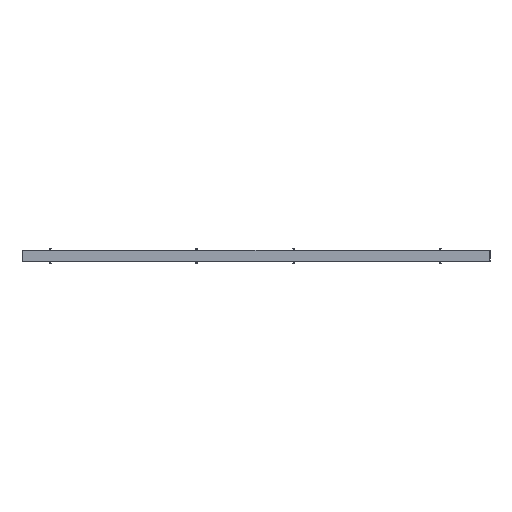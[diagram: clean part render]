
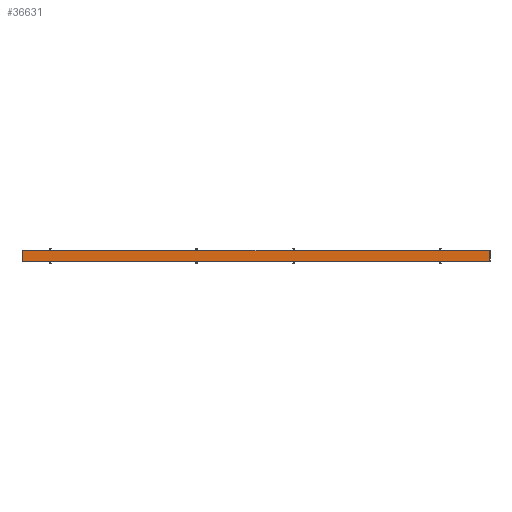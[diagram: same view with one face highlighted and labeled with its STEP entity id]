
A CAD part, left-side view. The second image highlights one B-rep face of the part: STEP entity #36631.
In plain terms, the highlighted planar face has unit normal (-1, 0, 0) as drawn and (0, -1, 0) by its records, which use the part's own axes.
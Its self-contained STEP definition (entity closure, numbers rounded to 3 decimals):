
#34921=CARTESIAN_POINT(' ',(-23.4,0.,-1076.9));
#34922=VERTEX_POINT(' ',#34921);
#34936=CARTESIAN_POINT(' ',(-23.4,0.,1076.9));
#34941=DIRECTION(' ',(0.,0.,-1.));
#34946=VECTOR(' ',#34941,1.);
#34951=LINE('',#34936,#34946);
#34956=CARTESIAN_POINT(' ',(-23.4,0.,1076.9));
#34957=VERTEX_POINT(' ',#34956);
#34961=EDGE_CURVE(' ',#34957,#34922,#34951,.T.);
#35311=CARTESIAN_POINT(' ',(23.4,0.,1076.9));
#35316=DIRECTION(' ',(-1.,0.,0.));
#35321=VECTOR(' ',#35316,1.);
#35326=LINE('',#35311,#35321);
#35331=CARTESIAN_POINT(' ',(23.4,0.,1076.9));
#35332=VERTEX_POINT(' ',#35331);
#35336=EDGE_CURVE(' ',#35332,#34957,#35326,.T.);
#36456=CARTESIAN_POINT(' ',(-23.4,0.,-1076.9));
#36461=DIRECTION(' ',(1.,0.,0.));
#36466=VECTOR(' ',#36461,1.);
#36471=LINE('',#36456,#36466);
#36476=CARTESIAN_POINT(' ',(23.4,0.,-1076.9));
#36477=VERTEX_POINT(' ',#36476);
#36481=EDGE_CURVE(' ',#34922,#36477,#36471,.T.);
#36551=DIRECTION(' ',(0.,-1.,0.));
#36556=CARTESIAN_POINT(' ',(-23.4,0.,1076.9));
#36561=DIRECTION(' ',(0.,-0.,-1.));
#36566=AXIS2_PLACEMENT_3D(' ',#36556,#36551,#36561);
#36571=PLANE('NONE',#36566);
#36576=ORIENTED_EDGE(' ',*,*,#34961,.T.);
#36581=ORIENTED_EDGE(' ',*,*,#36481,.T.);
#36586=CARTESIAN_POINT(' ',(23.4,0.,1076.9));
#36591=DIRECTION(' ',(0.,0.,-1.));
#36596=VECTOR(' ',#36591,1.);
#36601=LINE('',#36586,#36596);
#36606=EDGE_CURVE(' ',#35332,#36477,#36601,.T.);
#36611=ORIENTED_EDGE(' ',*,*,#36606,.F.);
#36616=ORIENTED_EDGE(' ',*,*,#35336,.T.);
#36621=EDGE_LOOP(' ',(#36576,#36581,#36611,#36616));
#36626=FACE_OUTER_BOUND(' ',#36621,.T.);
#36631=ADVANCED_FACE('NONE',(#36626),#36571,.T.);
